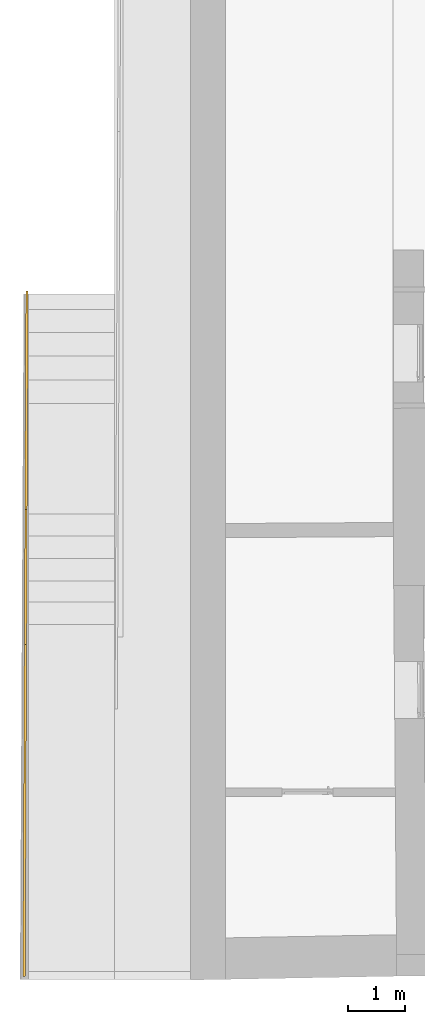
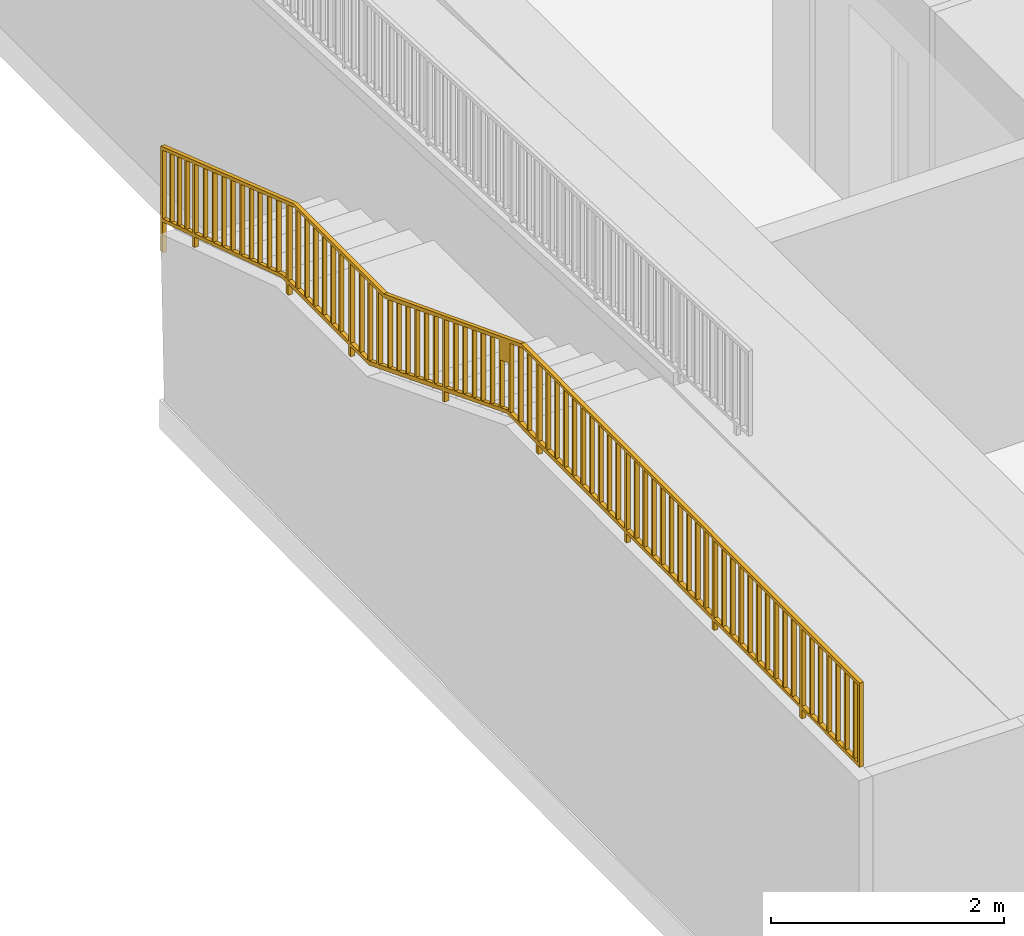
# One storey, part 12 of 17: 1 railing.
"""IFC2X3 building model written with IfcOpenShell, lengths in millimetres."""

import ifcopenshell
import ifcopenshell.guid

model = None  # the IFC model being written
_history = None  # IfcOwnerHistory: only IFC2X3 demands one
_inside = {}  # id of a spatial element -> (the spatial element, [elements in it])
_under = {}  # id of a project, library or spatial element -> (it, [spatial elements below it])
_declared = {}  # id of a project -> (the project, [libraries it declares])
_typed = {}  # id of a type object -> (the type object, [elements of that type])
_made_of = {}  # id of a material, layer set ... -> (it, [elements and type objects made of it])


def new_model(schema):
    """Start an empty IFC model of exactly this schema.

    Asked for "IFC4X3", IfcOpenShell would pick the latest addendum, in which some entities
    have other attributes; the version numbers below select the first issue.
    IFC2X3 requires an IfcOwnerHistory on every rooted entity: one is made here for all.
    """
    global model, _history
    if schema == "IFC4X3":
        model = ifcopenshell.file(schema_version=(4, 3, 0, 0))
    else:
        model = ifcopenshell.file(schema=schema)
    _inside.clear()
    _under.clear()
    _declared.clear()
    _typed.clear()
    _made_of.clear()
    _history = None
    if model.schema == "IFC2X3":
        org = make("IfcOrganization", Name="unknown")
        user = make(
            "IfcPersonAndOrganization",
            ThePerson=make("IfcPerson", FamilyName="unknown"),
            TheOrganization=org,
        )
        app = make(
            "IfcApplication",
            ApplicationDeveloper=org,
            Version="unknown",
            ApplicationFullName="unknown",
            ApplicationIdentifier="unknown",
        )
        _history = make(
            "IfcOwnerHistory",
            OwningUser=user,
            OwningApplication=app,
            ChangeAction="ADDED",
            CreationDate=0,
        )
    return model


def make(cls, **values):
    """One entity of the class cls with the attributes given. An attribute that is None is left unset."""
    return model.create_entity(
        cls, **{name: value for name, value in values.items() if value is not None}
    )


def entity(cls, *values):
    """Any entity or typed value of the class cls, its attributes in the order of the schema. None: left unset."""
    e = model.create_entity(cls)
    for i, value in enumerate(values):
        if value is not None:
            e[i] = value
    return e


def rooted(cls, **values):
    """An entity with a GlobalId (a new one), such as an element, a storey or a relation."""
    return make(cls, GlobalId=ifcopenshell.guid.new(), OwnerHistory=_history, **values)


def si_unit(unit_type, name, prefix=None):
    """IfcSIUnit, for example si_unit("LENGTHUNIT", "METRE", prefix="MILLI")."""
    return make("IfcSIUnit", UnitType=unit_type, Prefix=prefix, Name=name)


def converted_unit(unit_type, name, factor, base, dimensions=None, offset=None):
    """IfcConversionBasedUnit, such as the inch: factor (a typed value) times the base unit."""
    return make(
        "IfcConversionBasedUnit"
        if offset is None
        else "IfcConversionBasedUnitWithOffset",
        ConversionOffset=offset,
        Dimensions=None
        if dimensions is None
        else entity("IfcDimensionalExponents", *dimensions),
        UnitType=unit_type,
        Name=name,
        ConversionFactor=make(
            "IfcMeasureWithUnit", ValueComponent=factor, UnitComponent=base
        ),
    )


def derived_unit(unit_type, elements):
    """IfcDerivedUnit: a product of units, each with its exponent."""
    return make(
        "IfcDerivedUnit",
        Elements=[
            make("IfcDerivedUnitElement", Unit=unit, Exponent=power)
            for unit, power in elements
        ],
        UnitType=unit_type,
    )


def assignment(units):
    """IfcUnitAssignment: the units of a project."""
    return None if units is None else make("IfcUnitAssignment", Units=units)


def point(xyz):
    """IfcCartesianPoint."""
    return None if xyz is None else make("IfcCartesianPoint", Coordinates=xyz)


def direction(xyz):
    """IfcDirection."""
    return None if xyz is None else make("IfcDirection", DirectionRatios=xyz)


def frame(location, z_axis=None, x_axis=None):
    """IfcAxis2Placement3D, a coordinate frame: its origin and axes. An axis left out is left unset."""
    return make(
        "IfcAxis2Placement3D",
        Location=point(location),
        Axis=direction(z_axis),
        RefDirection=direction(x_axis),
    )


def origin():
    """The frame at (0, 0, 0) with its axes left unset."""
    return frame((0.0, 0.0, 0.0))


def place(relative_to, where):
    """IfcLocalPlacement: puts the frame where relative to a parent placement (None: the world)."""
    return make(
        "IfcLocalPlacement", PlacementRelTo=relative_to, RelativePlacement=where
    )


def context(
    kind, dimensions, precision=None, world=None, true_north=None, identifier=None
):
    """IfcGeometricRepresentationContext, for example the 3D "Model" context."""
    return make(
        "IfcGeometricRepresentationContext",
        ContextIdentifier=identifier,
        ContextType=kind,
        CoordinateSpaceDimension=dimensions,
        Precision=precision,
        WorldCoordinateSystem=world,
        TrueNorth=true_north,
    )


def subcontext(parent, identifier, kind, view, scale=None):
    """IfcGeometricRepresentationSubContext, for example "Body" below "Model"."""
    return make(
        "IfcGeometricRepresentationSubContext",
        ContextIdentifier=identifier,
        ContextType=kind,
        ParentContext=parent,
        TargetScale=scale,
        TargetView=view,
    )


def project(units=None, contexts=None):
    """IfcProject with its units and contexts."""
    return rooted(
        "IfcProject",
        Name="project",
        RepresentationContexts=contexts,
        UnitsInContext=assignment(units),
    )


def spatial(cls, under=None, at=None, **own):
    """A site, building, storey or space (cls), placed at a placement, below another one or the project."""
    s = rooted(cls, ObjectPlacement=at, **own)
    if under is not None:
        _under.setdefault(under.id(), (under, []))[1].append(s)
    return s


def polyline(points):
    """IfcPolyline through the points."""
    return make("IfcPolyline", Points=[point(p) for p in points])


def outline(outer, holes=None, kind="AREA"):
    """IfcArbitraryClosedProfileDef: a profile drawn as a closed curve; with holes, ...WithVoids."""
    if holes is None:
        return make("IfcArbitraryClosedProfileDef", ProfileType=kind, OuterCurve=outer)
    return make(
        "IfcArbitraryProfileDefWithVoids",
        ProfileType=kind,
        OuterCurve=outer,
        InnerCurves=holes,
    )


def extrude(swept, where, along, depth):
    """IfcExtrudedAreaSolid: the profile swept, set in the frame where, extruded along a direction by depth."""
    return make(
        "IfcExtrudedAreaSolid",
        SweptArea=swept,
        Position=where,
        ExtrudedDirection=direction(along),
        Depth=depth,
    )


def shape(context_of_items, identifier, shape_type, items):
    """IfcShapeRepresentation: the items that make up one representation, for example the "Body"."""
    return make(
        "IfcShapeRepresentation",
        ContextOfItems=context_of_items,
        RepresentationIdentifier=identifier,
        RepresentationType=shape_type,
        Items=items,
    )


def source(mapping_origin, context_of_items, identifier, shape_type, items):
    """IfcRepresentationMap: a shape defined once, which mapped items show again and again."""
    return make(
        "IfcRepresentationMap",
        MappingOrigin=mapping_origin,
        MappedRepresentation=shape(context_of_items, identifier, shape_type, items),
    )


def transform(
    local_origin,
    x_axis=None,
    y_axis=None,
    z_axis=None,
    scale=None,
    scale2=None,
    scale3=None,
    uniform=True,
):
    """IfcCartesianTransformationOperator3D, or its non-uniform kind. x_axis, y_axis, z_axis: its Axis1, 2, 3."""
    if uniform:
        return make(
            "IfcCartesianTransformationOperator3D",
            Axis1=direction(x_axis),
            Axis2=direction(y_axis),
            LocalOrigin=point(local_origin),
            Scale=scale,
            Axis3=direction(z_axis),
        )
    return make(
        "IfcCartesianTransformationOperator3DnonUniform",
        Axis1=direction(x_axis),
        Axis2=direction(y_axis),
        LocalOrigin=point(local_origin),
        Scale=scale,
        Axis3=direction(z_axis),
        Scale2=scale2,
        Scale3=scale3,
    )


def mapped(mapping_source, mapping_target):
    """IfcMappedItem: shows the shape of a source again, moved by a transform."""
    return make(
        "IfcMappedItem", MappingSource=mapping_source, MappingTarget=mapping_target
    )


def made_of(thing, what):
    """Note that an element or type object is made of a material, layer set ...; save() writes the relation."""
    if what is not None:
        _made_of.setdefault(what.id(), (what, []))[1].append(thing)
    return thing


def type_object(cls, material=None, **own):
    """A type object (cls), such as IfcWallType, which elements share."""
    return made_of(rooted(cls, **own), material)


def type_shapes(of_type, sources):
    """Give a type object the sources (RepresentationMaps) that its elements show as mapped items."""
    of_type.RepresentationMaps = sources


def element(
    cls,
    number,
    at=None,
    inside=None,
    cuts=None,
    type_object=None,
    material=None,
    context=None,
    identifier="Body",
    shape_type=None,
    held_by="IfcProductDefinitionShape",
    body=None,
    shapes=None,
    **own,
):
    """One element of the class cls, such as IfcWall. Its Tag is "e" and its number.

    at: its placement. inside: the storey or other place that contains it. cuts: it is an
    opening in that element (IfcRelVoidsElement). A single representation is given by context,
    identifier, shape_type and body (its items); several are given by shapes. held_by: the class
    of the entity that holds the representations. save() writes the other relations.
    """
    e = rooted(cls, Tag="e%d" % number, ObjectPlacement=at, **own)
    if body is not None:
        shapes = [shape(context, identifier, shape_type, body)]
    if shapes is not None:
        e.Representation = make(held_by, Representations=shapes)
    if inside is not None:
        _inside.setdefault(inside.id(), (inside, []))[1].append(e)
    if cuts is not None:
        rooted(
            "IfcRelVoidsElement", RelatingBuildingElement=cuts, RelatedOpeningElement=e
        )
    if type_object is not None:
        _typed.setdefault(type_object.id(), (type_object, []))[1].append(e)
    return made_of(e, material)


def aggregate(whole, parts):
    """IfcRelAggregates: a whole, such as a stair, and the parts it consists of."""
    return rooted("IfcRelAggregates", RelatingObject=whole, RelatedObjects=parts)


def save(model, path):
    """Write the relations noted so far, then the file.

    IfcRelAggregates (storeys below a building ...), IfcRelContainedInSpatialStructure (elements
    in a storey), IfcRelDefinesByType, IfcRelAssociatesMaterial and IfcRelDeclares: one each for
    every whole, place, type object, material and project.
    """
    for whole, parts in _under.values():
        aggregate(whole, parts)
    for where, things in _inside.values():
        rooted(
            "IfcRelContainedInSpatialStructure",
            RelatedElements=things,
            RelatingStructure=where,
        )
    for kind, things in _typed.values():
        rooted("IfcRelDefinesByType", RelatedObjects=things, RelatingType=kind)
    for what, things in _made_of.values():
        rooted("IfcRelAssociatesMaterial", RelatedObjects=things, RelatingMaterial=what)
    for by, libraries in _declared.values():
        rooted("IfcRelDeclares", RelatingContext=by, RelatedDefinitions=libraries)
    model.write(path)


model = new_model("IFC2X3")

# Units and contexts
model_context = context("Model", 3, precision=0.01, world=origin(), true_north=direction((6.12303176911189e-17, 1.0)))
context_of_model = context(None, 3, precision=0.01, world=origin(), true_north=direction((6.12303176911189e-17, 1.0)))
body_context = subcontext(model_context, "Body", "Model", "MODEL_VIEW")
ifc_project = project(units=[si_unit("LENGTHUNIT", "METRE", prefix="MILLI"), si_unit("AREAUNIT", "SQUARE_METRE"), si_unit("VOLUMEUNIT", "CUBIC_METRE"), converted_unit("PLANEANGLEUNIT", "DEGREE", entity("IfcRatioMeasure", 0.0174532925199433), si_unit("PLANEANGLEUNIT", "RADIAN"), dimensions=[0, 0, 0, 0, 0, 0, 0]), si_unit("MASSUNIT", "GRAM", prefix="KILO"), derived_unit("MASSDENSITYUNIT", [(si_unit("MASSUNIT", "GRAM", prefix="KILO"), 1), (si_unit("LENGTHUNIT", "METRE"), -3)]), si_unit("TIMEUNIT", "SECOND"), si_unit("FREQUENCYUNIT", "HERTZ"), si_unit("THERMODYNAMICTEMPERATUREUNIT", "DEGREE_CELSIUS"), derived_unit("THERMALTRANSMITTANCEUNIT", [(si_unit("MASSUNIT", "GRAM", prefix="KILO"), 1), (si_unit("THERMODYNAMICTEMPERATUREUNIT", "KELVIN"), -1), (si_unit("TIMEUNIT", "SECOND"), -3)]), derived_unit("VOLUMETRICFLOWRATEUNIT", [(si_unit("LENGTHUNIT", "METRE"), 3), (si_unit("TIMEUNIT", "SECOND"), -1)]), si_unit("ELECTRICCURRENTUNIT", "AMPERE"), si_unit("ELECTRICVOLTAGEUNIT", "VOLT"), si_unit("POWERUNIT", "WATT"), si_unit("FORCEUNIT", "NEWTON", prefix="KILO"), si_unit("ILLUMINANCEUNIT", "LUX"), si_unit("LUMINOUSFLUXUNIT", "LUMEN"), si_unit("LUMINOUSINTENSITYUNIT", "CANDELA"), derived_unit("USERDEFINED", [(si_unit("MASSUNIT", "GRAM", prefix="KILO"), -1), (si_unit("LENGTHUNIT", "METRE"), -2), (si_unit("TIMEUNIT", "SECOND"), 3), (si_unit("LUMINOUSFLUXUNIT", "LUMEN"), 1)]), derived_unit("LINEARVELOCITYUNIT", [(si_unit("LENGTHUNIT", "METRE"), 1), (si_unit("TIMEUNIT", "SECOND"), -1)]), si_unit("PRESSUREUNIT", "PASCAL"), derived_unit("USERDEFINED", [(si_unit("LENGTHUNIT", "METRE"), -2), (si_unit("MASSUNIT", "GRAM", prefix="KILO"), 1), (si_unit("TIMEUNIT", "SECOND"), -2)])], contexts=[model_context, context_of_model])

# Site, building, storey
site_placement = place(None, frame((121442.264707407, 135347.995453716, -1800.0)))
site = spatial("IfcSite", under=ifc_project, at=site_placement, Name="Surface", CompositionType="ELEMENT")
building_placement = place(site_placement, origin())
building = spatial("IfcBuilding", under=site, at=building_placement, CompositionType="ELEMENT")
storey_placement = place(building_placement, frame((0.0, 0.0, -1490.0)))
storey = spatial("IfcBuildingStorey", under=building, at=storey_placement, Name="Kelder", CompositionType="ELEMENT", Elevation=-1489.99999999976)

# Railing
railing_type = type_object("IfcRailingType", Name="Railings 1", PredefinedType="NOTDEFINED")
shared_shape = source(origin(), body_context, "Body", "SweptSolid", [
    extrude(outline(polyline([(941.745429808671, -1407.40261190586), (6791.74542980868, -1407.40261190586), (6791.74542980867, -526.40261190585), (5797.23130331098, -526.40261190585), (5797.23130331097, -429.05261190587), (5762.23130331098, -429.05261190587), (5762.23130331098, -526.40261190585), (4277.23130331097, -526.40261190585), (4277.23130331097, -429.05261190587), (4242.23130331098, -429.05261190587), (4242.23130331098, -526.40261190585), (2767.23130331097, -526.40261190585), (2767.23130331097, -429.05261190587), (2732.23130331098, -429.05261190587), (2732.23130331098, -526.40261190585), (1242.23130331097, -526.40261190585), (1242.23130331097, -429.05261190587), (1207.23130331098, -429.05261190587), (1207.23130331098, -526.40261190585), (688.352061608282, -526.402611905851), (-374.974942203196, -105.178829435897), (-374.974942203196, 4.17260973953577), (-409.974942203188, 17.9991741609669), (-409.974942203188, -91.3140142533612), (-1686.93987338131, 414.539779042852), (-1999.86994797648, 414.539779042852), (-1999.86994797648, 518.416034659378), (-2034.86994797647, 518.81136073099), (-2034.86994797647, 414.539779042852), (-3079.86994797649, 414.539779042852), (-3079.86994797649, 530.614667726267), (-3114.86994797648, 531.009993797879), (-3114.86994797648, 414.539779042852), (-3190.19759041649, 414.539779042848), (-4701.72582163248, 905.665072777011), (-4701.72582163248, 1016.21027328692), (-4736.72582163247, 1027.77804215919), (-4736.72582163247, 917.03726214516), (-5250.19841466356, 1083.87462109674), (-5250.19841466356, 1407.56256549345), (-5285.19841466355, 1407.56256549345), (-5285.19841466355, 306.597388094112), (-2982.15918866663, -486.402611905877), (-1433.43625373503, -486.402611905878), (941.745429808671, -1407.40261190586)]), holes=[polyline([(6699.73130331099, -1372.40261190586), (6699.73130331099, -561.40261190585), (6756.74542980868, -561.40261190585), (6756.74542980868, -1372.40261190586), (6699.73130331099, -1372.40261190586)]), polyline([(-5131.83064403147, 1008.61342317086), (-5131.83064403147, 290.805353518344), (-5250.19841466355, 331.562645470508), (-5250.19841466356, 1047.0734432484), (-5131.83064403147, 1008.61342317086)]), polyline([(587.231303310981, -523.991036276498), (694.294046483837, -566.402611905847), (732.231303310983, -566.402611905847), (732.231303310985, -1077.24618349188), (587.231303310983, -1021.02101093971), (587.231303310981, -523.991036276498)]), polyline([(912.231303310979, -1358.41906495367), (912.231303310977, -566.402611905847), (1044.73130331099, -566.402611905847), (1044.73130331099, -1377.40261190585), (961.188277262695, -1377.40261190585), (912.231303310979, -1358.41906495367)]), polyline([(5947.23130331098, -561.40261190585), (6077.23130331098, -561.402611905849), (6077.23130331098, -1372.40261190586), (5947.23130331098, -1372.40261190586), (5947.23130331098, -561.40261190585)]), polyline([(5927.23130331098, -561.40261190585), (5927.23130331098, -1372.40261190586), (5797.23130331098, -1372.40261190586), (5797.23130331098, -561.40261190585), (5927.23130331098, -561.40261190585)]), polyline([(6097.23130331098, -561.40261190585), (6227.23130331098, -561.402611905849), (6227.23130331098, -1372.40261190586), (6097.23130331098, -1372.40261190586), (6097.23130331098, -561.40261190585)]), polyline([(6247.23130331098, -561.40261190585), (6379.73130331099, -561.40261190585), (6379.73130331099, -1372.40261190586), (6247.23130331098, -1372.40261190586), (6247.23130331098, -561.40261190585)]), polyline([(6399.73130331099, -561.402611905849), (6529.73130331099, -561.40261190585), (6529.73130331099, -1372.40261190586), (6399.73130331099, -1372.40261190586), (6399.73130331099, -561.402611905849)]), polyline([(6549.73130331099, -561.40261190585), (6679.73130331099, -561.40261190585), (6679.73130331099, -1372.40261190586), (6549.73130331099, -1372.40261190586), (6549.73130331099, -561.40261190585)]), polyline([(5762.23130331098, -561.40261190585), (5762.23130331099, -1372.40261190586), (5632.231303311, -1372.40261190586), (5632.231303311, -561.40261190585), (5762.23130331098, -561.40261190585)]), polyline([(4427.23130331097, -561.40261190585), (4557.23130331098, -561.402611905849), (4557.23130331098, -1372.40261190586), (4427.23130331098, -1372.40261190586), (4427.23130331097, -561.40261190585)]), polyline([(4407.23130331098, -561.40261190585), (4407.23130331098, -1372.40261190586), (4277.23130331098, -1372.40261190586), (4277.23130331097, -561.40261190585), (4407.23130331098, -561.40261190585)]), polyline([(4577.23130331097, -561.40261190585), (4707.23130331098, -561.40261190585), (4707.23130331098, -1372.40261190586), (4577.23130331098, -1372.40261190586), (4577.23130331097, -561.40261190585)]), polyline([(4727.23130331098, -561.40261190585), (4859.73130331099, -561.40261190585), (4859.73130331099, -1372.40261190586), (4727.23130331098, -1372.40261190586), (4727.23130331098, -561.40261190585)]), polyline([(4879.73130331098, -561.402611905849), (5009.73130331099, -561.40261190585), (5009.73130331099, -1372.40261190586), (4879.73130331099, -1372.40261190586), (4879.73130331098, -561.402611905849)]), polyline([(5029.73130331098, -561.40261190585), (5159.73130331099, -561.40261190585), (5159.73130331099, -1372.40261190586), (5029.73130331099, -1372.40261190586), (5029.73130331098, -561.40261190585)]), polyline([(5179.73130331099, -561.40261190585), (5312.231303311, -561.40261190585), (5312.231303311, -1372.40261190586), (5179.73130331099, -1372.40261190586), (5179.73130331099, -561.40261190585)]), polyline([(4242.23130331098, -566.40261190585), (4242.23130331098, -1377.40261190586), (4122.23130331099, -1377.40261190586), (4122.23130331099, -566.40261190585), (4242.23130331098, -566.40261190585)]), polyline([(5332.23130331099, -561.40261190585), (5462.231303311, -561.40261190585), (5462.231303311, -1372.40261190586), (5332.231303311, -1372.40261190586), (5332.23130331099, -561.40261190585)]), polyline([(5482.23130331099, -561.40261190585), (5612.231303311, -561.40261190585), (5612.231303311, -1372.40261190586), (5482.231303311, -1372.40261190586), (5482.23130331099, -561.40261190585)]), polyline([(2917.23130331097, -566.40261190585), (3047.23130331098, -566.402611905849), (3047.23130331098, -1377.40261190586), (2917.23130331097, -1377.40261190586), (2917.23130331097, -566.40261190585)]), polyline([(2897.23130331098, -566.40261190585), (2897.23130331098, -1377.40261190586), (2767.23130331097, -1377.40261190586), (2767.23130331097, -566.40261190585), (2897.23130331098, -566.40261190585)]), polyline([(3067.23130331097, -566.40261190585), (3197.23130331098, -566.402611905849), (3197.23130331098, -1377.40261190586), (3067.23130331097, -1377.40261190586), (3067.23130331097, -566.40261190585)]), polyline([(3217.23130331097, -566.40261190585), (3349.73130331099, -566.40261190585), (3349.73130331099, -1377.40261190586), (3217.23130331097, -1377.40261190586), (3217.23130331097, -566.40261190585)]), polyline([(3369.73130331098, -566.402611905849), (3499.73130331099, -566.40261190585), (3499.73130331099, -1377.40261190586), (3369.73130331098, -1377.40261190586), (3369.73130331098, -566.402611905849)]), polyline([(3519.73130331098, -566.40261190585), (3649.73130331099, -566.40261190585), (3649.73130331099, -1377.40261190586), (3519.73130331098, -1377.40261190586), (3519.73130331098, -566.40261190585)]), polyline([(3669.73130331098, -566.40261190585), (3802.231303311, -566.40261190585), (3802.231303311, -1377.40261190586), (3669.73130331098, -1377.40261190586), (3669.73130331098, -566.40261190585)]), polyline([(2732.23130331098, -566.402611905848), (2732.23130331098, -1377.40261190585), (2597.23130331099, -1377.40261190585), (2597.23130331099, -566.402611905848), (2732.23130331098, -566.402611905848)]), polyline([(3822.23130331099, -566.40261190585), (3952.231303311, -566.40261190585), (3952.231303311, -1377.40261190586), (3822.23130331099, -1377.40261190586), (3822.23130331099, -566.40261190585)]), polyline([(3972.23130331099, -566.40261190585), (4102.231303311, -566.40261190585), (4102.231303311, -1377.40261190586), (3972.23130331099, -1377.40261190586), (3972.23130331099, -566.40261190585)]), polyline([(1392.23130331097, -566.402611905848), (1522.23130331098, -566.402611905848), (1522.23130331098, -1377.40261190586), (1392.23130331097, -1377.40261190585), (1392.23130331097, -566.402611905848)]), polyline([(1372.23130331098, -566.402611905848), (1372.23130331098, -1377.40261190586), (1242.23130331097, -1377.40261190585), (1242.23130331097, -566.402611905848), (1372.23130331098, -566.402611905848)]), polyline([(1542.23130331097, -566.402611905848), (1672.23130331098, -566.402611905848), (1672.23130331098, -1377.40261190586), (1542.23130331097, -1377.40261190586), (1542.23130331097, -566.402611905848)]), polyline([(1692.23130331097, -566.402611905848), (1824.73130331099, -566.402611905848), (1824.73130331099, -1377.40261190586), (1692.23130331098, -1377.40261190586), (1692.23130331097, -566.402611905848)]), polyline([(1844.73130331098, -566.402611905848), (1974.73130331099, -566.402611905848), (1974.73130331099, -1377.40261190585), (1844.73130331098, -1377.40261190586), (1844.73130331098, -566.402611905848)]), polyline([(1994.73130331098, -566.402611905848), (2124.73130331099, -566.402611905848), (2124.73130331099, -1377.40261190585), (1994.73130331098, -1377.40261190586), (1994.73130331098, -566.402611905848)]), polyline([(2144.73130331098, -566.402611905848), (2277.231303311, -566.402611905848), (2277.231303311, -1377.40261190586), (2144.73130331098, -1377.40261190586), (2144.73130331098, -566.402611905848)]), polyline([(1207.23130331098, -566.402611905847), (1207.23130331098, -1377.40261190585), (1064.73130331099, -1377.40261190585), (1064.73130331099, -566.402611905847), (1207.23130331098, -566.402611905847)]), polyline([(2297.23130331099, -566.402611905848), (2427.231303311, -566.402611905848), (2427.231303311, -1377.40261190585), (2297.23130331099, -1377.40261190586), (2297.23130331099, -566.402611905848)]), polyline([(2447.23130331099, -566.402611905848), (2577.231303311, -566.402611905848), (2577.231303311, -1377.40261190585), (2447.23130331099, -1377.40261190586), (2447.23130331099, -566.402611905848)]), polyline([(567.231303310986, -516.068284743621), (567.231303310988, -1224.64193026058), (427.85272412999, -1170.59651878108), (427.852724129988, -460.855192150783), (567.231303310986, -516.068284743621)]), polyline([(752.231303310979, -566.402611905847), (892.231303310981, -566.402611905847), (892.231303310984, -1350.66386873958), (752.231303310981, -1296.37749524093), (752.231303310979, -566.402611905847)]), polyline([(407.852724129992, -452.932440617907), (407.852724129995, -1162.84132256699), (265.50496319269, -1107.64458173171), (265.504963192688, -396.543143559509), (407.852724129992, -452.932440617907)]), polyline([(245.504963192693, -388.620392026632), (245.504963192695, -1099.88938551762), (116.751397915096, -1049.96392741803), (116.751397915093, -337.616266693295), (245.504963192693, -388.620392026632)]), polyline([(96.7513979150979, -335.017417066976), (96.7513979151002, -1042.20873120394), (-48.2486020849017, -985.983558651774), (-48.248602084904, -277.577468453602), (96.7513979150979, -335.017417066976)]), polyline([(-68.2486020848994, -269.654716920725), (-68.2486020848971, -978.228362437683), (-207.627181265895, -924.182950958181), (-207.627181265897, -214.441624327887), (-68.2486020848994, -269.654716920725)]), polyline([(-227.627181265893, -206.51887279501), (-227.627181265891, -916.42775474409), (-374.974942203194, -859.292214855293), (-374.974942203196, -148.148887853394), (-227.627181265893, -206.51887279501)]), polyline([(-409.974942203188, -134.284072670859), (-409.974942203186, -845.720621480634), (-553.728507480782, -789.97876622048), (-553.728507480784, -77.3378836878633), (-409.974942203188, -134.284072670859)]), polyline([(-573.728507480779, -71.6231613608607), (-573.728507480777, -778.856364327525), (-713.72850748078, -724.569990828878), (-713.728507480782, -16.1639006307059), (-573.728507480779, -71.6231613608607)]), polyline([(-733.728507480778, -8.24114909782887), (-733.728507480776, -716.814794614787), (-873.107086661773, -662.769383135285), (-873.107086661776, 46.971943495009), (-733.728507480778, -8.24114909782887)]), polyline([(-893.107086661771, 54.8946950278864), (-893.107086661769, -655.014186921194), (-1035.45484759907, -599.817446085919), (-1035.45484759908, 111.283992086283), (-893.107086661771, 54.8946950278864)]), polyline([(-1055.45484759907, 122.226055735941), (-1055.45484759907, -589.001048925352), (-1189.20841287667, -537.136791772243), (-1189.20841287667, 175.210868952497), (-1055.45484759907, 122.226055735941)]), polyline([(-1209.20841287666, 181.84550910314), (-1209.20841287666, -529.381595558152), (-1342.96197815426, -477.517338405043), (-1342.96197815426, 234.830322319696), (-1209.20841287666, 181.84550910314)]), polyline([(-1362.96197815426, 242.753073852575), (-1362.96197815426, -469.762142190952), (-1410.30966550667, -451.402611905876), (-1514.8699479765, -451.402611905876), (-1514.8699479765, 302.92952889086), (-1362.96197815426, 242.753073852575)]), polyline([(-1549.86994797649, 316.794344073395), (-1549.86994797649, -450.958237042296), (-1684.86994797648, -450.958237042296), (-1684.86994797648, 370.272916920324), (-1549.86994797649, 316.794344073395)]), polyline([(-2929.86994797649, 375.041762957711), (-2799.86994797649, 375.041762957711), (-2799.86994797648, -450.958237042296), (-2929.86994797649, -450.958237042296), (-2929.86994797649, 375.041762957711)]), polyline([(-2949.86994797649, 375.041762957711), (-2949.86994797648, -450.958237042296), (-2977.59275566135, -450.958237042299), (-3079.86994797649, -415.741375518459), (-3079.86994797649, 375.041762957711), (-2949.86994797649, 375.041762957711)]), polyline([(-2779.86994797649, 375.041762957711), (-2649.86994797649, 375.041762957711), (-2649.86994797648, -450.958237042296), (-2779.86994797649, -450.958237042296), (-2779.86994797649, 375.041762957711)]), polyline([(-2629.86994797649, 375.041762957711), (-2497.36994797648, 375.041762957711), (-2497.36994797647, -450.958237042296), (-2629.86994797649, -450.958237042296), (-2629.86994797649, 375.041762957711)]), polyline([(-2477.36994797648, 375.041762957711), (-2347.36994797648, 375.041762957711), (-2347.36994797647, -450.958237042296), (-2477.36994797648, -450.958237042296), (-2477.36994797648, 375.041762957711)]), polyline([(-2327.36994797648, 375.041762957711), (-2207.36994797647, 375.04176295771), (-2207.36994797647, -450.958237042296), (-2327.36994797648, -450.958237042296), (-2327.36994797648, 375.041762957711)]), polyline([(-2187.36994797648, 375.04176295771), (-2034.86994797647, 375.04176295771), (-2034.86994797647, -450.958237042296), (-2187.36994797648, -450.958237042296), (-2187.36994797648, 375.04176295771)]), polyline([(-3114.86994797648, 375.041762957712), (-3114.86994797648, -403.689909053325), (-3269.03967072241, -350.60501637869), (-3269.03967072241, 403.355945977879), (-3181.89757577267, 375.041762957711), (-3114.86994797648, 375.041762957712)]), polyline([(-1999.86994797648, 375.041762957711), (-1854.86994797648, 375.04176295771), (-1854.86994797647, -450.958237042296), (-1999.86994797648, -450.958237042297), (-1999.86994797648, 375.041762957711)]), polyline([(-1834.86994797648, 375.041762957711), (-1704.86994797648, 375.04176295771), (-1704.86994797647, -450.958237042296), (-1834.86994797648, -450.958237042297), (-1834.86994797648, 375.041762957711)]), polyline([(-3739.5195761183, 556.2241339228), (-3610.7660108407, 514.389564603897), (-3610.7660108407, -232.939201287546), (-3739.5195761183, -188.605793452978), (-3739.5195761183, 556.2241339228)]), polyline([(-3759.5195761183, 562.722527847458), (-3759.5195761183, -181.719241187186), (-3898.89815529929, -133.727347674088), (-3898.8981552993, 608.009373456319), (-3759.5195761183, 562.722527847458)]), polyline([(-3918.89815529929, 614.507767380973), (-3918.89815529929, -126.840795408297), (-4061.24591623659, -77.8265306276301), (-4061.24591623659, 660.759358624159), (-3918.89815529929, 614.507767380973)]), polyline([(-4081.24591623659, 667.257752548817), (-4081.24591623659, -70.9399783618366), (-4214.99948151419, -24.884932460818), (-4214.99948151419, 710.716920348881), (-4081.24591623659, 667.257752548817)]), polyline([(-4234.99948151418, 717.215314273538), (-4234.99948151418, -17.9983801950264), (-4374.99948151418, 30.2074856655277), (-4374.99948151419, 762.704071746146), (-4234.99948151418, 717.215314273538)]), polyline([(-4394.99948151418, 769.202465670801), (-4394.99948151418, 37.0940379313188), (-4534.37806069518, 85.0859314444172), (-4534.37806069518, 814.489311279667), (-4394.99948151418, 769.202465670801)]), polyline([(-4554.37806069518, 820.987705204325), (-4554.37806069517, 91.9724837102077), (-4701.72582163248, 142.708386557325), (-4701.72582163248, 868.863894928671), (-4554.37806069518, 820.987705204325)]), polyline([(-4736.72582163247, 880.23608429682), (-4736.72582163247, 154.75985302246), (-4847.45206485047, 192.885956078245), (-4847.45206485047, 916.213221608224), (-4736.72582163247, 880.23608429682)]), polyline([(-3289.03967072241, 409.854339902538), (-3289.03967072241, -343.718464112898), (-3428.41824990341, -295.726570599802), (-3428.41824990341, 455.1411855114), (-3289.03967072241, 409.854339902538)]), polyline([(-3448.4182499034, 461.639579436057), (-3448.4182499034, -288.840018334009), (-3590.76601084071, -239.825753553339), (-3590.76601084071, 507.89117067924), (-3448.4182499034, 461.639579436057)]), polyline([(-4867.45206485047, 922.711615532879), (-4867.45206485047, 199.772508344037), (-4982.45206485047, 239.37018387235), (-4982.45206485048, 960.077380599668), (-4867.45206485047, 922.711615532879)]), polyline([(-5002.45206485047, 966.575774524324), (-5002.45206485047, 246.256736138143), (-5111.83064403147, 283.918801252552), (-5111.83064403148, 1002.1150292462), (-5002.45206485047, 966.575774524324)])]), frame((-121673.478418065, -126786.802000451, 1430.80843708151), z_axis=(1.0, 0.0, 0.0), x_axis=(0.0, -1.0, 0.0)), (0.0, 0.0, 1.0), 40.8354028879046),
])
type_shapes(railing_type, [shared_shape])
railing_placement = place(storey_placement, frame((-2.71879928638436, -521.394114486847, 1490.0), z_axis=(0.0, 0.0, 1.0), x_axis=(0.999990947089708, -0.0042550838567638, 0.0)))
element("IfcRailing", 1, at=railing_placement, inside=storey, type_object=railing_type, Name="Railings 1:Railings 1", ObjectType="Railings 1", PredefinedType="NOTDEFINED", context=body_context, shape_type="MappedRepresentation", body=[
    mapped(shared_shape, transform((0.0, 0.0, 0.0), scale=1.0)),
])

save(model, "model.ifc")
